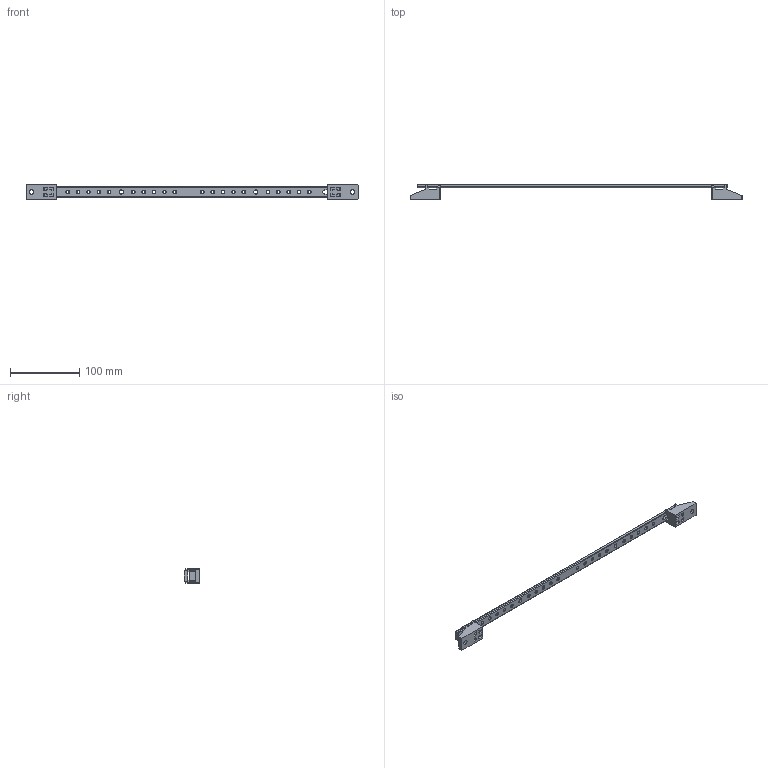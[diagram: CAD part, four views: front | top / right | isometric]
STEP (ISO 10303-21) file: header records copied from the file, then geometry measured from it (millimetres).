
FILE_DESCRIPTION (( 'STEP AP203' ), '1' );
FILE_NAME ('BI 1 ÑÁ äëÿ MPP.STEP', '2022-03-31T08:37:31', ( '' ), ( '' ), 'SwSTEP 2.0', 'SolidWorks 2018', '' );
FILE_SCHEMA (( 'CONFIG_CONTROL_DESIGN' ));
Length unit declared in the file: millimetre
Products named in the file (3): BI 1 Îäíîïîëþñíûé èçîëÿòîð_BI 1 Ž¤­®¯®«îá­ë© ¨§®«ïâ®à; BI 1 ﾑﾁ 蓁 MPP; Øèíà çàçåìëåíèÿ BI 1 5õ15õ450_˜¨­  § §¥¬«¥­¨ï BI 1 5å15å450
Assembly tree (3 placements, depth 2):
  BI 1 ﾑﾁ 蓁 MPP
    BI 1 Îäíîïîëþñíûé èçîëÿòîð_BI 1 Ž¤­®¯®«îá­ë© ¨§®«ïâ®à  x2
    Øèíà çàçåìëåíèÿ BI 1 5õ15õ450_˜¨­  § §¥¬«¥­¨ï BI 1 5å15å450
Bounding box: 481 x 22.5 x 21 mm (x, y, z)
Volume: 48999.5 mm3; surface area: 28440.9 mm2
Topology: 3 solids, 3 shells, 504 faces, 1302 edges, 840 vertices
Faces by surface type: plane 288, cone 88, cylinder 80, bspline 48
Entity records: 10328 total; most frequent: CARTESIAN_POINT 2056, ORIENTED_EDGE 1654, DIRECTION 1601, EDGE_CURVE 827, VECTOR 547, LINE 547, AXIS2_PLACEMENT_3D 527, VERTEX_POINT 524
